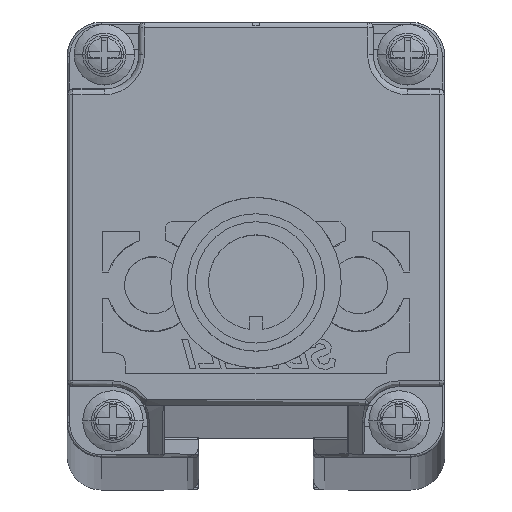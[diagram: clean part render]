
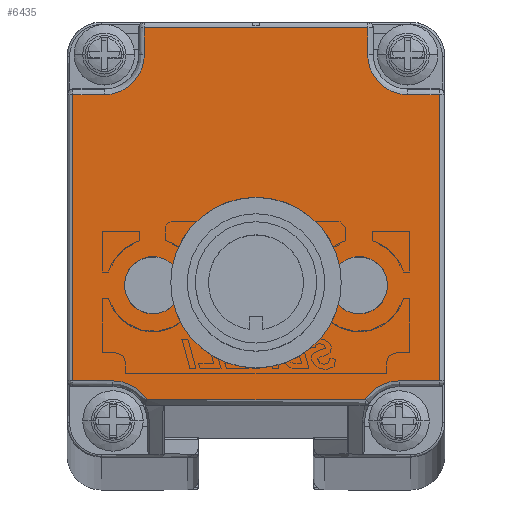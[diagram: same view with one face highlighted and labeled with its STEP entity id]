
A CAD part, top view. The second image highlights one B-rep face of the part: STEP entity #6435.
In plain terms, the highlighted planar face has unit normal (0, 0, 1).
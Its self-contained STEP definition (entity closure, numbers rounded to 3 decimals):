
#2629=CARTESIAN_POINT('',(0.65,-8.054,
1525.276));
#2630=DIRECTION('',(0.,0.,1.));
#2631=DIRECTION('',(1.,0.,0.));
#2632=AXIS2_PLACEMENT_3D('',#2629,#2630,#2631);
#2634=CARTESIAN_POINT('',(0.65,-8.054,
1525.276));
#2635=DIRECTION('',(0.,0.,1.));
#2636=DIRECTION('',(-1.,0.,0.));
#2637=AXIS2_PLACEMENT_3D('',#2634,#2635,#2636);
#2639=CARTESIAN_POINT('',(9.65,-8.055,1525.276));
#2640=DIRECTION('',(0.,0.,1.));
#2641=DIRECTION('',(1.,-0.007,0.));
#2642=AXIS2_PLACEMENT_3D('',#2639,#2640,#2641);
#2644=CARTESIAN_POINT('',(9.65,-8.055,1525.276));
#2645=DIRECTION('',(0.,0.,1.));
#2646=DIRECTION('',(-1.,0.007,0.));
#2647=AXIS2_PLACEMENT_3D('',#2644,#2645,#2646);
#2649=CARTESIAN_POINT('',(-8.35,-8.054,
1525.276));
#2650=DIRECTION('',(0.,0.,1.));
#2651=DIRECTION('',(1.,0.007,0.));
#2652=AXIS2_PLACEMENT_3D('',#2649,#2650,#2651);
#2654=CARTESIAN_POINT('',(-8.35,-8.054,
1525.276));
#2655=DIRECTION('',(0.,0.,1.));
#2656=DIRECTION('',(-1.,-0.007,0.));
#2657=AXIS2_PLACEMENT_3D('',#2654,#2655,#2656);
#2659=CARTESIAN_POINT('',(-11.85,-19.904,
1525.276));
#2660=DIRECTION('',(0.,0.,1.));
#2661=DIRECTION('',(0.849,0.528,0.));
#2662=AXIS2_PLACEMENT_3D('',#2659,#2660,#2661);
#2664=CARTESIAN_POINT('',(-12.6,12.094,1525.276));
#2665=DIRECTION('',(0.,0.,1.));
#2666=DIRECTION('',(0.,-1.,0.));
#2667=AXIS2_PLACEMENT_3D('',#2664,#2665,#2666);
#2669=CARTESIAN_POINT('',(13.9,12.094,1525.276));
#2670=DIRECTION('',(0.,0.,1.));
#2671=DIRECTION('',(-1.,0.,0.));
#2672=AXIS2_PLACEMENT_3D('',#2669,#2670,#2671);
#2674=CARTESIAN_POINT('',(13.15,-19.904,1525.276));
#2675=DIRECTION('',(0.,0.,1.));
#2676=DIRECTION('',(0.,1.,0.));
#2677=AXIS2_PLACEMENT_3D('',#2674,#2675,#2676);
#4186=DIRECTION('',(1.,0.,0.));
#4187=VECTOR('',#4186,19.056);
#4188=CARTESIAN_POINT('',(-8.878,-18.056,
1525.276));
#4189=LINE('',#4188,#4187);
#4728=DIRECTION('',(0.,1.,0.));
#4729=VECTOR('',#4728,2.35);
#4730=CARTESIAN_POINT('',(10.4,12.094,1525.276));
#4731=LINE('',#4730,#4729);
#4751=DIRECTION('',(-1.,0.,0.));
#4752=VECTOR('',#4751,19.5);
#4753=CARTESIAN_POINT('',(10.4,14.444,1525.276));
#4754=LINE('',#4753,#4752);
#4775=DIRECTION('',(0.,-1.,0.));
#4776=VECTOR('',#4775,2.35);
#4777=CARTESIAN_POINT('',(-9.1,14.444,1525.276));
#4778=LINE('',#4777,#4776);
#4802=DIRECTION('',(-1.,0.,0.));
#4803=VECTOR('',#4802,2.75);
#4804=CARTESIAN_POINT('',(-12.6,8.594,1525.276));
#4805=LINE('',#4804,#4803);
#4833=DIRECTION('',(0.,-1.,0.));
#4834=VECTOR('',#4833,24.998);
#4835=CARTESIAN_POINT('',(-15.35,8.594,1525.276));
#4836=LINE('',#4835,#4834);
#4857=DIRECTION('',(1.,0.,0.));
#4858=VECTOR('',#4857,3.5);
#4859=CARTESIAN_POINT('',(-15.35,-16.404,
1525.276));
#4860=LINE('',#4859,#4858);
#4921=DIRECTION('',(-1.,0.,0.));
#4922=VECTOR('',#4921,2.75);
#4923=CARTESIAN_POINT('',(16.65,8.594,1525.276));
#4924=LINE('',#4923,#4922);
#5154=DIRECTION('',(1.,0.,0.));
#5155=VECTOR('',#5154,3.5);
#5156=CARTESIAN_POINT('',(13.15,-16.404,1525.276));
#5157=LINE('',#5156,#5155);
#5185=DIRECTION('',(0.,1.,0.));
#5186=VECTOR('',#5185,24.998);
#5187=CARTESIAN_POINT('',(16.65,-16.404,1525.276));
#5188=LINE('',#5187,#5186);
#5581=CARTESIAN_POINT('',(12.15,-8.072,1525.276));
#5582=VERTEX_POINT('',#5581);
#5583=CARTESIAN_POINT('',(7.15,-8.039,1525.276));
#5584=VERTEX_POINT('',#5583);
#5585=CARTESIAN_POINT('',(-8.878,-18.056,
1525.276));
#5586=CARTESIAN_POINT('',(-11.85,-16.404,
1525.276));
#5587=VERTEX_POINT('',#5585);
#5588=VERTEX_POINT('',#5586);
#5589=CARTESIAN_POINT('',(-15.35,-16.404,
1525.276));
#5590=VERTEX_POINT('',#5589);
#5591=CARTESIAN_POINT('',(-15.35,8.594,1525.276));
#5592=VERTEX_POINT('',#5591);
#5593=CARTESIAN_POINT('',(-12.6,8.594,1525.276));
#5594=VERTEX_POINT('',#5593);
#5595=CARTESIAN_POINT('',(-9.1,12.094,1525.276));
#5596=VERTEX_POINT('',#5595);
#5597=CARTESIAN_POINT('',(-9.1,14.444,1525.276));
#5598=VERTEX_POINT('',#5597);
#5599=CARTESIAN_POINT('',(10.4,14.444,1525.276));
#5600=VERTEX_POINT('',#5599);
#5601=CARTESIAN_POINT('',(10.4,12.094,1525.276));
#5602=VERTEX_POINT('',#5601);
#5603=CARTESIAN_POINT('',(13.9,8.594,1525.276));
#5604=VERTEX_POINT('',#5603);
#5605=CARTESIAN_POINT('',(16.65,8.594,1525.276));
#5606=VERTEX_POINT('',#5605);
#5607=CARTESIAN_POINT('',(16.65,-16.404,1525.276));
#5608=VERTEX_POINT('',#5607);
#5609=CARTESIAN_POINT('',(13.15,-16.404,1525.276));
#5610=VERTEX_POINT('',#5609);
#5611=CARTESIAN_POINT('',(10.178,-18.056,1525.276));
#5612=VERTEX_POINT('',#5611);
#5613=CARTESIAN_POINT('',(-5.85,-8.037,
1525.276));
#5614=CARTESIAN_POINT('',(-10.85,-8.07,
1525.276));
#5615=VERTEX_POINT('',#5613);
#5616=VERTEX_POINT('',#5614);
#5617=CARTESIAN_POINT('',(3.65,-8.054,1525.276));
#5618=CARTESIAN_POINT('',(-2.35,-8.054,
1525.276));
#5619=VERTEX_POINT('',#5617);
#5620=VERTEX_POINT('',#5618);
#6384=CARTESIAN_POINT('',(0.65,0.944,
1525.276));
#6385=DIRECTION('',(0.,0.,1.));
#6386=DIRECTION('',(1.,0.,0.));
#6387=AXIS2_PLACEMENT_3D('',#6384,#6385,#6386);
#6388=PLANE('',#6387);
#6390=ORIENTED_EDGE('',*,*,#6389,.T.);
#6392=ORIENTED_EDGE('',*,*,#6391,.F.);
#6394=ORIENTED_EDGE('',*,*,#6393,.F.);
#6396=ORIENTED_EDGE('',*,*,#6395,.F.);
#6398=ORIENTED_EDGE('',*,*,#6397,.T.);
#6400=ORIENTED_EDGE('',*,*,#6399,.F.);
#6402=ORIENTED_EDGE('',*,*,#6401,.F.);
#6404=ORIENTED_EDGE('',*,*,#6403,.F.);
#6406=ORIENTED_EDGE('',*,*,#6405,.T.);
#6408=ORIENTED_EDGE('',*,*,#6407,.F.);
#6410=ORIENTED_EDGE('',*,*,#6409,.F.);
#6412=ORIENTED_EDGE('',*,*,#6411,.F.);
#6414=ORIENTED_EDGE('',*,*,#6413,.T.);
#6416=ORIENTED_EDGE('',*,*,#6415,.F.);
#6417=EDGE_LOOP('',(#6390,#6392,#6394,#6396,#6398,#6400,#6402,#6404,#6406,#6408,
#6410,#6412,#6414,#6416));
#6418=FACE_OUTER_BOUND('',#6417,.F.);
#6419=ORIENTED_EDGE('',*,*,#6371,.T.);
#6420=ORIENTED_EDGE('',*,*,#6332,.T.);
#6421=EDGE_LOOP('',(#6419,#6420));
#6422=FACE_BOUND('',#6421,.F.);
#6424=ORIENTED_EDGE('',*,*,#6423,.T.);
#6426=ORIENTED_EDGE('',*,*,#6425,.T.);
#6427=EDGE_LOOP('',(#6424,#6426));
#6428=FACE_BOUND('',#6427,.F.);
#6430=ORIENTED_EDGE('',*,*,#6429,.T.);
#6432=ORIENTED_EDGE('',*,*,#6431,.T.);
#6433=EDGE_LOOP('',(#6430,#6432));
#6434=FACE_BOUND('',#6433,.F.);
#2633=CIRCLE('',#2632,3.);
#2638=CIRCLE('',#2637,3.);
#2643=CIRCLE('',#2642,2.5);
#2648=CIRCLE('',#2647,2.5);
#2653=CIRCLE('',#2652,2.5);
#2658=CIRCLE('',#2657,2.5);
#2663=CIRCLE('',#2662,3.5);
#2668=CIRCLE('',#2667,3.5);
#2673=CIRCLE('',#2672,3.5);
#2678=CIRCLE('',#2677,3.5);
#6332=EDGE_CURVE('',#5584,#5582,#2648,.T.);
#6371=EDGE_CURVE('',#5582,#5584,#2643,.T.);
#6389=EDGE_CURVE('',#5587,#5588,#2663,.T.);
#6391=EDGE_CURVE('',#5590,#5588,#4860,.T.);
#6393=EDGE_CURVE('',#5592,#5590,#4836,.T.);
#6395=EDGE_CURVE('',#5594,#5592,#4805,.T.);
#6397=EDGE_CURVE('',#5594,#5596,#2668,.T.);
#6399=EDGE_CURVE('',#5598,#5596,#4778,.T.);
#6401=EDGE_CURVE('',#5600,#5598,#4754,.T.);
#6403=EDGE_CURVE('',#5602,#5600,#4731,.T.);
#6405=EDGE_CURVE('',#5602,#5604,#2673,.T.);
#6407=EDGE_CURVE('',#5606,#5604,#4924,.T.);
#6409=EDGE_CURVE('',#5608,#5606,#5188,.T.);
#6411=EDGE_CURVE('',#5610,#5608,#5157,.T.);
#6413=EDGE_CURVE('',#5610,#5612,#2678,.T.);
#6415=EDGE_CURVE('',#5587,#5612,#4189,.T.);
#6423=EDGE_CURVE('',#5615,#5616,#2653,.T.);
#6425=EDGE_CURVE('',#5616,#5615,#2658,.T.);
#6429=EDGE_CURVE('',#5619,#5620,#2633,.T.);
#6431=EDGE_CURVE('',#5620,#5619,#2638,.T.);
#6435=ADVANCED_FACE('',(#6418,#6422,#6428,#6434),#6388,.T.);
